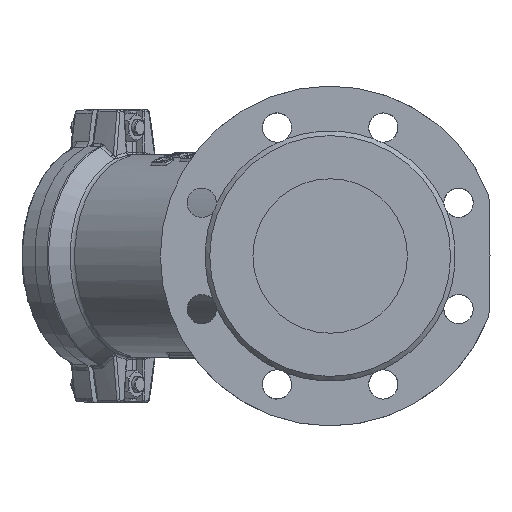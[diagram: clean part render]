
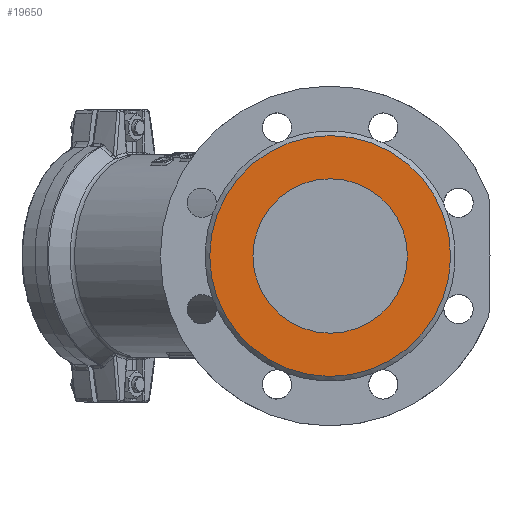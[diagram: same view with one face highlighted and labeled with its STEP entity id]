
A CAD part, left-side view. The second image highlights one B-rep face of the part: STEP entity #19650.
In plain terms, the highlighted planar face has unit normal (-1, 0, 0).
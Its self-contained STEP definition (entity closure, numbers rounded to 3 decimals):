
#1925 = VERTEX_POINT ( 'NONE', #49101 ) ;
#8228 = CARTESIAN_POINT ( 'NONE',  ( -158., 50., 0. ) ) ;
#9232 = EDGE_LOOP ( 'NONE', ( #24644 ) ) ;
#12438 = DIRECTION ( 'NONE',  ( 0., 0., 1. ) ) ;
#12613 = FACE_OUTER_BOUND ( 'NONE', #51479, .T. ) ;
#13960 = AXIS2_PLACEMENT_3D ( 'NONE', #47724, #61317, #19487 ) ;
#18044 = CARTESIAN_POINT ( 'NONE',  ( -158., 0., 0. ) ) ;
#19487 = DIRECTION ( 'NONE',  ( 0., 0., 1. ) ) ;
#19650 = ADVANCED_FACE ( 'NONE', ( #23160, #12613 ), #41189, .T. ) ;
#21173 = CARTESIAN_POINT ( 'NONE',  ( -158., 0., 78. ) ) ;
#23160 = FACE_BOUND ( 'NONE', #9232, .T. ) ;
#24644 = ORIENTED_EDGE ( 'NONE', *, *, #37166, .F. ) ;
#25223 = VERTEX_POINT ( 'NONE', #21173 ) ;
#27582 = ORIENTED_EDGE ( 'NONE', *, *, #29746, .T. ) ;
#27783 = AXIS2_PLACEMENT_3D ( 'NONE', #8228, #46130, #60019 ) ;
#29746 = EDGE_CURVE ( 'NONE', #25223, #25223, #43138, .T. ) ;
#37166 = EDGE_CURVE ( 'NONE', #1925, #1925, #40723, .T. ) ;
#40723 = CIRCLE ( 'NONE', #13960, 50. ) ;
#41189 = PLANE ( 'NONE',  #27783 ) ;
#43138 = CIRCLE ( 'NONE', #53979, 78. ) ;
#46130 = DIRECTION ( 'NONE',  ( -1., 0., 0. ) ) ;
#47724 = CARTESIAN_POINT ( 'NONE',  ( -158., 0., 0. ) ) ;
#49101 = CARTESIAN_POINT ( 'NONE',  ( -158., 0., 50. ) ) ;
#50304 = DIRECTION ( 'NONE',  ( -1., 0., 0. ) ) ;
#51479 = EDGE_LOOP ( 'NONE', ( #27582 ) ) ;
#53979 = AXIS2_PLACEMENT_3D ( 'NONE', #18044, #50304, #12438 ) ;
#60019 = DIRECTION ( 'NONE',  ( 0., 0., 1. ) ) ;
#61317 = DIRECTION ( 'NONE',  ( -1., 0., 0. ) ) ;
